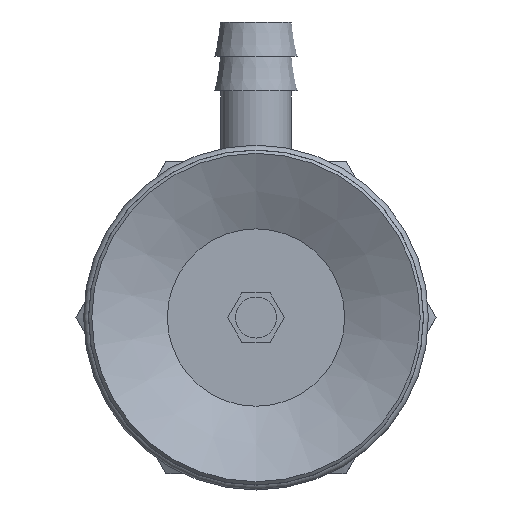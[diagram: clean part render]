
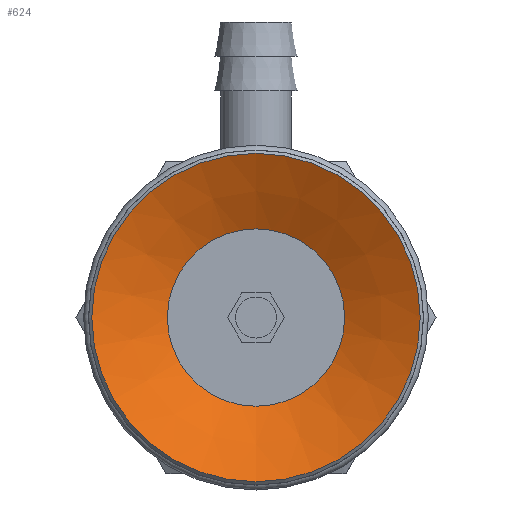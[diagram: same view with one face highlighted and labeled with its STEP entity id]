
A CAD part, front view. The second image highlights one B-rep face of the part: STEP entity #624.
In plain terms, the highlighted conical face has half-angle 63 degrees and reference radius 5.4 mm.
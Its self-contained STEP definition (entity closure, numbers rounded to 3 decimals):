
#624=ADVANCED_FACE('',(#922,#923),#924,.F.);
#922=FACE_BOUND('',#1267,.T.);
#923=FACE_OUTER_BOUND('',#1268,.T.);
#924=CONICAL_SURFACE('',#1269,5.4,1.1);
#1267=EDGE_LOOP('',(#2093));
#1268=EDGE_LOOP('',(#2094));
#1269=AXIS2_PLACEMENT_3D('',#2095,#2096,#2097);
#2093=ORIENTED_EDGE('',*,*,#2463,.F.);
#2094=ORIENTED_EDGE('',*,*,#2462,.T.);
#2095=CARTESIAN_POINT('',(0.0,5.518,0.0));
#2096=DIRECTION('',(-0.0,-1.0,0.));
#2097=DIRECTION('',(0.0,0.,-1.0));
#2462=EDGE_CURVE('',#2857,#2857,#2858,.T.);
#2463=EDGE_CURVE('',#2859,#2859,#2860,.T.);
#2857=VERTEX_POINT('',#3721);
#2858=CIRCLE('',#3722,10.0);
#2859=VERTEX_POINT('',#3723);
#2860=CIRCLE('',#3724,5.4);
#3721=CARTESIAN_POINT('',(0.0,3.175,-10.0));
#3722=AXIS2_PLACEMENT_3D('',#4135,#4136,#4137);
#3723=CARTESIAN_POINT('',(0.0,5.518,-5.4));
#3724=AXIS2_PLACEMENT_3D('',#4138,#4139,#4140);
#4135=CARTESIAN_POINT('',(0.0,3.175,0.0));
#4136=DIRECTION('',(0.0,-1.0,0.));
#4137=DIRECTION('',(0.0,0.,-1.0));
#4138=CARTESIAN_POINT('',(0.0,5.518,0.0));
#4139=DIRECTION('',(0.0,-1.0,0.));
#4140=DIRECTION('',(0.0,0.,-1.0));
